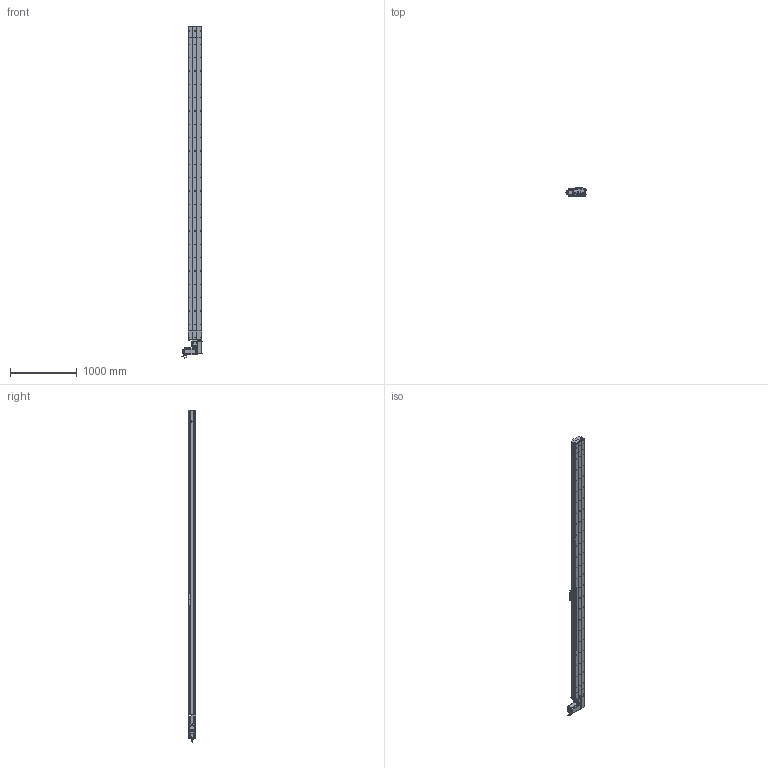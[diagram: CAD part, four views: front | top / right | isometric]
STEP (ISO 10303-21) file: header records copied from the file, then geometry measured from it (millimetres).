
FILE_DESCRIPTION (( 'STEP AP214' ), '1' );
FILE_NAME ('D20 TBH LH S4400.STEP', '2010-07-01T09:29:11', ( 'Conseil Régional Haute-Normandie' ), ( 'Conseil Régional Haute-Normandie' ), 'SwSTEP 2.0', 'SolidWorks 2010', '' );
FILE_SCHEMA (( 'AUTOMOTIVE_DESIGN' ));
Length unit declared in the file: millimetre
Products named in the file (40): head LH_Default; guide D20B; D20 TBH LH S4400; Couroie tail D20_Default; couvercle D20 S4400_Default; corp D20 S4400_Default; Course B L4400_Default; couvercle head D20_Default; rail head D20; corpl head D20_Default; Chariot D20B; chariot D20B_Default; rail + couroie  D20 S4400; vis M5 L70_Default; Plaque racord D20LH_Default; Moteur motionking 110BLDC170A-640x; poulie tail D20_Default; corpl tail D20_Default; tail D20_Default; corps 110BLDC170A-630x; avant 110BLDC170A-630x; clavette; plaque de  bout tail D20_Default; vis M8 L12_Default; cache D20_Default; poulie head D20_Default; Conecteur_Default; couvercle tail D20_Default; Conecteur2_Default; codeur 110BLDC170A-630x; Renvoi LH D20_Default; vis M5 L5_Default; couroie_Default; plaque de  bout head D20B LH_Default; cache arbre D20_Default; tete d''axe poulie D20B; vis M5 L8 90°_Default; vis M5 L25_Default; vis M5 L12_Default; rail tail D20
Assembly tree (71 placements, depth 4):
  D20 TBH LH S4400
    Course B L4400_Default
      couvercle D20 S4400_Default
      corp D20 S4400_Default
      rail + couroie  D20 S4400
    tail D20_Default
      vis M5 L8 90°_Default  x2
      Couroie tail D20_Default
      couvercle tail D20_Default
      vis M5 L12_Default  x4
      poulie tail D20_Default
      corpl tail D20_Default
      vis M5 L25_Default  x2
      tete d''axe poulie D20B
      rail tail D20
      plaque de  bout tail D20_Default
    chariot D20B_Default
      vis M5 L12_Default  x4
      guide D20B  x2
      Chariot D20B
    head LH_Default
      vis M5 L12_Default  x10
      cache arbre D20_Default
      rail head D20
      vis M8 L12_Default  x4
      Plaque racord D20LH_Default
      vis M5 L70_Default  x4
      couroie_Default
      Renvoi LH D20_Default
      cache D20_Default  x2
      poulie head D20_Default
      Moteur motionking 110BLDC170A-640x
        Conecteur2_Default
        clavette
        codeur 110BLDC170A-630x
        Conecteur_Default
        corps 110BLDC170A-630x
        avant 110BLDC170A-630x
      vis M5 L25_Default  x2
      corpl head D20_Default
      couvercle head D20_Default
      vis M5 L5_Default  x4
      plaque de  bout head D20B LH_Default
Bounding box: 304.2 x 115.7 x 4980 mm (x, y, z)
Volume: 36669116.6 mm3; surface area: 9199707.2 mm2
Topology: 95 solids, 95 shells, 2978 faces, 7788 edges, 5043 vertices
Faces by surface type: plane 1661, cylinder 993, bspline 136, cone 99, torus 89
Entity records: 99043 total; most frequent: CARTESIAN_POINT 32805, ORIENTED_EDGE 12232, DIRECTION 11403, EDGE_CURVE 6116, VERTEX_POINT 4029, AXIS2_PLACEMENT_3D 3819, VECTOR 3765, LINE 3765
